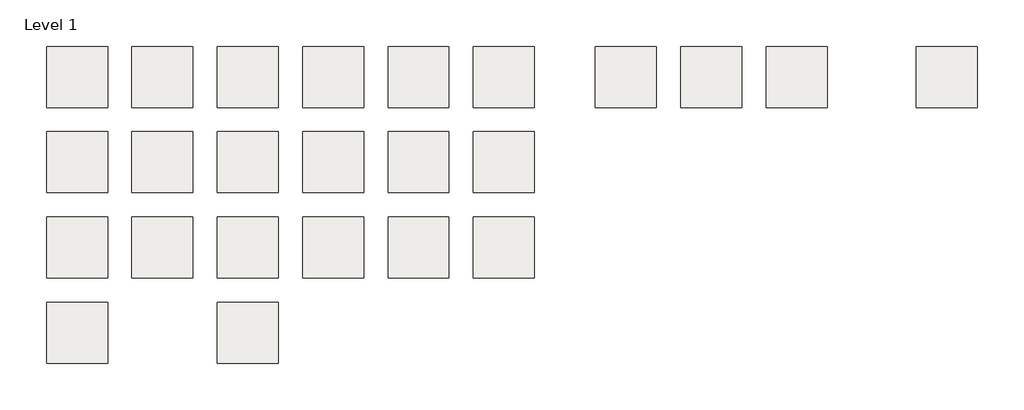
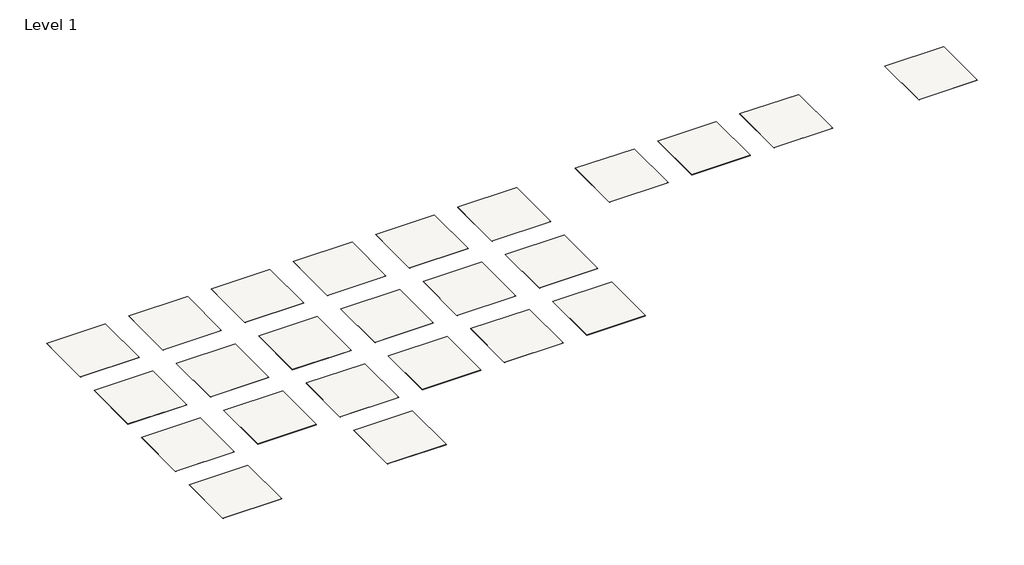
# One storey: 24 slabs.
"""IFC4 building model written with IfcOpenShell, lengths in millimetres."""

from ifc_helpers import new_model, si_unit, frame, origin, place, context, project, spatial, polyline, outline, extrude, element, save

model = new_model("IFC4")

# Units and contexts
model_context = context("Model", 3, world=origin())
ifc_project = project(units=[si_unit("LENGTHUNIT", "METRE", prefix="MILLI")], contexts=[model_context])

# Site, building, storey
site = spatial("IfcSite", under=ifc_project)
building = spatial("IfcBuilding", under=site)
storey = spatial("IfcBuildingStorey", under=building, Name="Level 1", Elevation=0.0)

# Slabs
placement = place(None, origin())
element("IfcSlab", 1, ObjectType="Armstrong Flooring_Duo_ST510_piña colada", at=placement, inside=storey, context=model_context, shape_type="SweptSolid", body=[
    extrude(outline(polyline([(1219.2, 6400.8), (1219.2, 4876.8), (-304.8, 4876.8), (-304.8, 6400.8), (1219.2, 6400.8)])), frame((0.0, 0.0, -3.175), z_axis=(0.0, 0.0, 1.0), x_axis=(1.0, 0.0, 0.0)), (0.0, 0.0, 1.0), 3.175),
])
element("IfcSlab", 2, ObjectType="Armstrong Flooring_Duo_ST511_champagne", at=placement, inside=storey, context=model_context, shape_type="SweptSolid", body=[
    extrude(outline(polyline([(3352.8, 6400.8), (3352.8, 4876.8), (1828.8, 4876.8), (1828.8, 6400.8), (3352.8, 6400.8)])), frame((0.0, 0.0, -3.175), z_axis=(0.0, 0.0, 1.0), x_axis=(1.0, 0.0, 0.0)), (0.0, 0.0, 1.0), 3.175),
])
element("IfcSlab", 3, ObjectType="Armstrong Flooring_Duo_ST513_root beer float", at=placement, inside=storey, context=model_context, shape_type="SweptSolid", body=[
    extrude(outline(polyline([(5486.4, 6400.8), (5486.4, 4876.8), (3962.4, 4876.8), (3962.4, 6400.8), (5486.4, 6400.8)])), frame((0.0, 0.0, -3.175), z_axis=(0.0, 0.0, 1.0), x_axis=(1.0, 0.0, 0.0)), (0.0, 0.0, 1.0), 3.175),
])
element("IfcSlab", 4, ObjectType="Armstrong Flooring_Duo_ST514_club soda", at=placement, inside=storey, context=model_context, shape_type="SweptSolid", body=[
    extrude(outline(polyline([(7620.0, 6400.8), (7620.0, 4876.8), (6096.0, 4876.8), (6096.0, 6400.8), (7620.0, 6400.8)])), frame((0.0, 0.0, -3.175), z_axis=(0.0, 0.0, 1.0), x_axis=(1.0, 0.0, 0.0)), (0.0, 0.0, 1.0), 3.175),
])
element("IfcSlab", 5, ObjectType="Armstrong Flooring_Duo_ST515_on the rocks", at=placement, inside=storey, context=model_context, shape_type="SweptSolid", body=[
    extrude(outline(polyline([(9753.6, 6400.8), (9753.6, 4876.8), (8229.6, 4876.8), (8229.6, 6400.8), (9753.6, 6400.8)])), frame((0.0, 0.0, -3.175), z_axis=(0.0, 0.0, 1.0), x_axis=(1.0, 0.0, 0.0)), (0.0, 0.0, 1.0), 3.175),
])
element("IfcSlab", 6, ObjectType="Armstrong Flooring_Duo_ST516_pineapple juice", at=placement, inside=storey, context=model_context, shape_type="SweptSolid", body=[
    extrude(outline(polyline([(11887.2, 6400.8), (11887.2, 4876.8), (10363.2, 4876.8), (10363.2, 6400.8), (11887.2, 6400.8)])), frame((0.0, 0.0, -3.175), z_axis=(0.0, 0.0, 1.0), x_axis=(1.0, 0.0, 0.0)), (0.0, 0.0, 1.0), 3.175),
])
element("IfcSlab", 7, ObjectType="Armstrong Flooring_Duo_ST517_orange soda", at=placement, inside=storey, context=model_context, shape_type="SweptSolid", body=[
    extrude(outline(polyline([(1219.2, 4267.2), (1219.2, 2743.2), (-304.8, 2743.2), (-304.8, 4267.2), (1219.2, 4267.2)])), frame((0.0, 0.0, -3.175), z_axis=(0.0, 0.0, 1.0), x_axis=(1.0, 0.0, 0.0)), (0.0, 0.0, 1.0), 3.175),
])
element("IfcSlab", 8, ObjectType="Armstrong Flooring_Duo_ST518_tropical sunrise", at=placement, inside=storey, context=model_context, shape_type="SweptSolid", body=[
    extrude(outline(polyline([(3352.8, 4267.2), (3352.8, 2743.2), (1828.8, 2743.2), (1828.8, 4267.2), (3352.8, 4267.2)])), frame((0.0, 0.0, -3.175), z_axis=(0.0, 0.0, 1.0), x_axis=(1.0, 0.0, 0.0)), (0.0, 0.0, 1.0), 3.175),
])
element("IfcSlab", 9, ObjectType="Armstrong Flooring_Duo_ST519_fruit punch", at=placement, inside=storey, context=model_context, shape_type="SweptSolid", body=[
    extrude(outline(polyline([(5486.4, 4267.2), (5486.4, 2743.2), (3962.4, 2743.2), (3962.4, 4267.2), (5486.4, 4267.2)])), frame((0.0, 0.0, -3.175), z_axis=(0.0, 0.0, 1.0), x_axis=(1.0, 0.0, 0.0)), (0.0, 0.0, 1.0), 3.175),
])
element("IfcSlab", 10, ObjectType="Armstrong Flooring_Duo_ST528_bordeaux", at=placement, inside=storey, context=model_context, shape_type="SweptSolid", body=[
    extrude(outline(polyline([(7620.0, 4267.2), (7620.0, 2743.2), (6096.0, 2743.2), (6096.0, 4267.2), (7620.0, 4267.2)])), frame((0.0, 0.0, -3.175), z_axis=(0.0, 0.0, 1.0), x_axis=(1.0, 0.0, 0.0)), (0.0, 0.0, 1.0), 3.175),
])
element("IfcSlab", 11, ObjectType="Armstrong Flooring_Duo_ST529_zinfandel", at=placement, inside=storey, context=model_context, shape_type="SweptSolid", body=[
    extrude(outline(polyline([(9753.6, 4267.2), (9753.6, 2743.2), (8229.6, 2743.2), (8229.6, 4267.2), (9753.6, 4267.2)])), frame((0.0, 0.0, -3.175), z_axis=(0.0, 0.0, 1.0), x_axis=(1.0, 0.0, 0.0)), (0.0, 0.0, 1.0), 3.175),
])
element("IfcSlab", 12, ObjectType="Armstrong Flooring_Duo_ST523_blue hawaiian", at=placement, inside=storey, context=model_context, shape_type="SweptSolid", body=[
    extrude(outline(polyline([(11887.2, 4267.2), (11887.2, 2743.2), (10363.2, 2743.2), (10363.2, 4267.2), (11887.2, 4267.2)])), frame((0.0, 0.0, -3.175), z_axis=(0.0, 0.0, 1.0), x_axis=(1.0, 0.0, 0.0)), (0.0, 0.0, 1.0), 3.175),
])
element("IfcSlab", 13, ObjectType="Armstrong Flooring_Duo_ST524_blue lagoon", at=placement, inside=storey, context=model_context, shape_type="SweptSolid", body=[
    extrude(outline(polyline([(1219.2, 2133.6), (1219.2, 609.6), (-304.8, 609.6), (-304.8, 2133.6), (1219.2, 2133.6)])), frame((0.0, 0.0, -3.175), z_axis=(0.0, 0.0, 1.0), x_axis=(1.0, 0.0, 0.0)), (0.0, 0.0, 1.0), 3.175),
])
element("IfcSlab", 14, ObjectType="Armstrong Flooring_Duo_ST525_mint julep", at=placement, inside=storey, context=model_context, shape_type="SweptSolid", body=[
    extrude(outline(polyline([(3352.8, 2133.6), (3352.8, 609.6), (1828.8, 609.6), (1828.8, 2133.6), (3352.8, 2133.6)])), frame((0.0, 0.0, -3.175), z_axis=(0.0, 0.0, 1.0), x_axis=(1.0, 0.0, 0.0)), (0.0, 0.0, 1.0), 3.175),
])
element("IfcSlab", 15, ObjectType="Armstrong Flooring_Duo_ST526_appletini", at=placement, inside=storey, context=model_context, shape_type="SweptSolid", body=[
    extrude(outline(polyline([(5486.4, 2133.6), (5486.4, 609.6), (3962.4, 609.6), (3962.4, 2133.6), (5486.4, 2133.6)])), frame((0.0, 0.0, -3.175), z_axis=(0.0, 0.0, 1.0), x_axis=(1.0, 0.0, 0.0)), (0.0, 0.0, 1.0), 3.175),
])
element("IfcSlab", 16, ObjectType="Armstrong Flooring_Duo_ST527_black tea", at=placement, inside=storey, context=model_context, shape_type="SweptSolid", body=[
    extrude(outline(polyline([(7620.0, 2133.6), (7620.0, 609.6), (6096.0, 609.6), (6096.0, 2133.6), (7620.0, 2133.6)])), frame((0.0, 0.0, -3.175), z_axis=(0.0, 0.0, 1.0), x_axis=(1.0, 0.0, 0.0)), (0.0, 0.0, 1.0), 3.175),
])
element("IfcSlab", 17, ObjectType="Armstrong Flooring_Duo_ST931_caspian sand", at=placement, inside=storey, context=model_context, shape_type="SweptSolid", body=[
    extrude(outline(polyline([(9753.6, 2133.6), (9753.6, 609.6), (8229.6, 609.6), (8229.6, 2133.6), (9753.6, 2133.6)])), frame((0.0, 0.0, -3.175), z_axis=(0.0, 0.0, 1.0), x_axis=(1.0, 0.0, 0.0)), (0.0, 0.0, 1.0), 3.175),
])
element("IfcSlab", 18, ObjectType="Armstrong Flooring_Duo_ST932_english grey", at=placement, inside=storey, context=model_context, shape_type="SweptSolid", body=[
    extrude(outline(polyline([(11887.2, 2133.6), (11887.2, 609.6), (10363.2, 609.6), (10363.2, 2133.6), (11887.2, 2133.6)])), frame((0.0, 0.0, -3.175), z_axis=(0.0, 0.0, 1.0), x_axis=(1.0, 0.0, 0.0)), (0.0, 0.0, 1.0), 3.175),
])
element("IfcSlab", 19, ObjectType="Armstrong Flooring_Duo_ST933_nile night", at=placement, inside=storey, context=model_context, shape_type="SweptSolid", body=[
    extrude(outline(polyline([(1219.2, 0.0), (1219.2, -1524.0), (-304.8, -1524.0), (-304.8, 0.0), (1219.2, 0.0)])), frame((0.0, 0.0, -3.175), z_axis=(0.0, 0.0, 1.0), x_axis=(1.0, 0.0, 0.0)), (0.0, 0.0, 1.0), 3.175),
])
element("IfcSlab", 20, ObjectType="Armstrong Flooring_Duo_ST2PR_english grey with blue hawaiian/ blue lagoon", at=placement, inside=storey, context=model_context, shape_type="SweptSolid", body=[
    extrude(outline(polyline([(5486.4, 0.0), (5486.4, -1524.0), (3962.4, -1524.0), (3962.4, 0.0), (5486.4, 0.0)])), frame((0.0, 0.0, -3.175), z_axis=(0.0, 0.0, 1.0), x_axis=(1.0, 0.0, 0.0)), (0.0, 0.0, 1.0), 3.175),
])
element("IfcSlab", 21, ObjectType="Armstrong Flooring_Duo_ST931_caspian sand (large)", at=placement, inside=storey, context=model_context, shape_type="SweptSolid", body=[
    extrude(outline(polyline([(14935.2, 6400.8), (14935.2, 4876.8), (13411.2, 4876.8), (13411.2, 6400.8), (14935.2, 6400.8)])), frame((0.0, 0.0, -3.175), z_axis=(0.0, 0.0, 1.0), x_axis=(1.0, 0.0, 0.0)), (0.0, 0.0, 1.0), 3.175),
])
element("IfcSlab", 22, ObjectType="Armstrong Flooring_Duo_ST932_english grey (large)", at=placement, inside=storey, context=model_context, shape_type="SweptSolid", body=[
    extrude(outline(polyline([(17068.8, 6400.8), (17068.8, 4876.8), (15544.8, 4876.8), (15544.8, 6400.8), (17068.8, 6400.8)])), frame((0.0, 0.0, -3.175), z_axis=(0.0, 0.0, 1.0), x_axis=(1.0, 0.0, 0.0)), (0.0, 0.0, 1.0), 3.175),
])
element("IfcSlab", 23, ObjectType="Armstrong Flooring_Duo_ST933_nile night (large)", at=placement, inside=storey, context=model_context, shape_type="SweptSolid", body=[
    extrude(outline(polyline([(19202.4, 6400.8), (19202.4, 4876.8), (17678.4, 4876.8), (17678.4, 6400.8), (19202.4, 6400.8)])), frame((0.0, 0.0, -3.175), z_axis=(0.0, 0.0, 1.0), x_axis=(1.0, 0.0, 0.0)), (0.0, 0.0, 1.0), 3.175),
])
element("IfcSlab", 24, ObjectType="Armstrong Flooring_Duo_ST2PR_english grey with blue hawaiian/ blue lagoon (large)", at=placement, inside=storey, context=model_context, shape_type="SweptSolid", body=[
    extrude(outline(polyline([(22961.6, 6400.8), (22961.6, 4876.8), (21437.6, 4876.8), (21437.6, 6400.8), (22961.6, 6400.8)])), frame((0.0, 0.0, -3.175), z_axis=(0.0, 0.0, 1.0), x_axis=(1.0, 0.0, 0.0)), (0.0, 0.0, 1.0), 3.175),
])

save(model, "model.ifc")
